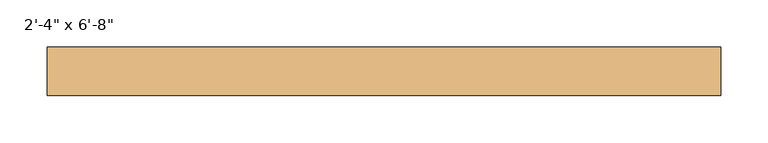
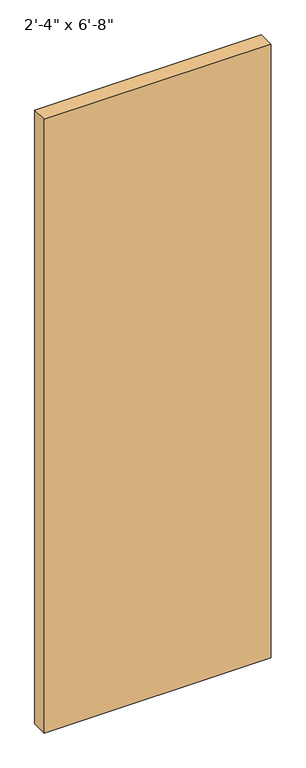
"""IFC4 building model written with IfcOpenShell, lengths in millimetres: door geometry."""

from ifc_helpers import new_model, si_unit, origin, origin_with_axes, place, context, project, spatial, polyline, outline, extrude, source, transform, mapped, element, save


def door_485245ec(model_context):
    return source(origin(), model_context, "Body", "SweptSolid", [
        extrude(outline(polyline([(355.6, 82.3515625), (-355.6, 82.3515625), (-355.6, 133.35), (355.6, 133.35), (355.6, 82.3515625)])), origin_with_axes(), (0.0, 0.0, 1.0), 2032.0),
    ])


if __name__ == "__main__":
    model = new_model("IFC4")
    model_context = context("Model", 3, world=origin())
    ifc_project = project(units=[si_unit("LENGTHUNIT", "METRE", prefix="MILLI")], contexts=[model_context])
    site = spatial("IfcSite", under=ifc_project)
    building = spatial("IfcBuilding", under=site)
    placement = place(None, origin())
    door_shape = door_485245ec(model_context)
    element("IfcDoor", 1, ObjectType="Planitar - Single Door_Flush Panel : 2'-4\" x 6'-8\"", at=placement, inside=building, context=model_context, shape_type="MappedRepresentation", body=[
        mapped(door_shape, transform((0.0, 0.0, 0.0), x_axis=(1.0, 0.0, 0.0), y_axis=(0.0, 1.0, 0.0), z_axis=(0.0, 0.0, 1.0))),
    ])
    save(model, "model.ifc")
